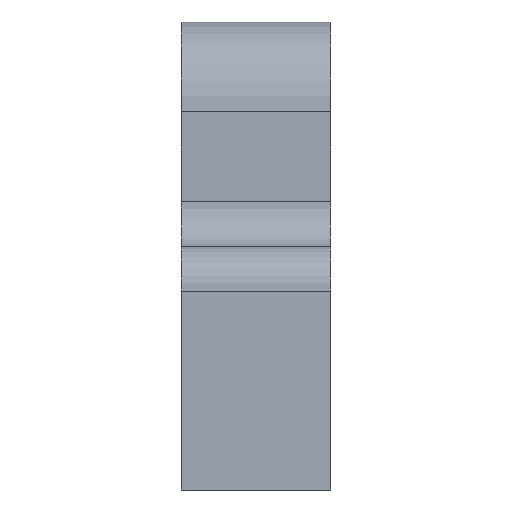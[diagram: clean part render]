
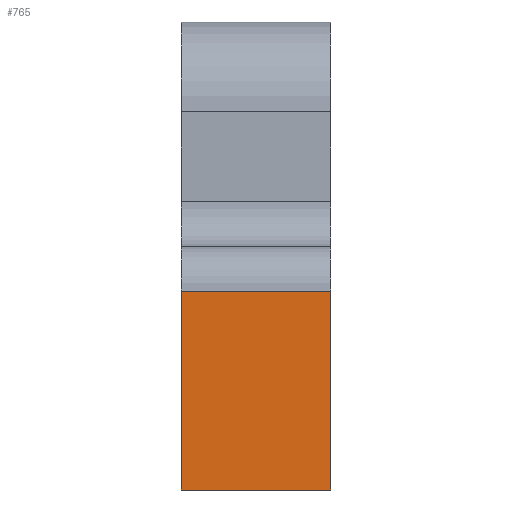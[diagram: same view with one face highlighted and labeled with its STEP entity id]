
A CAD part, left-side view. The second image highlights one B-rep face of the part: STEP entity #765.
In plain terms, the highlighted planar face has unit normal (-1, 0, 0).
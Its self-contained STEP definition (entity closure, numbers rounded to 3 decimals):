
#110=DIRECTION('',(0.,0.,1.));
#111=VECTOR('',#110,13.3);
#112=CARTESIAN_POINT('',(-33.,0.,-13.3));
#113=LINE('',#112,#111);
#153=DIRECTION('',(0.,-1.,0.));
#154=VECTOR('',#153,10.);
#155=CARTESIAN_POINT('',(-33.,10.,0.));
#156=LINE('',#155,#154);
#157=DIRECTION('',(0.,1.,0.));
#158=VECTOR('',#157,10.);
#159=CARTESIAN_POINT('',(-33.,0.,-13.3));
#160=LINE('',#159,#158);
#349=DIRECTION('',(0.,0.,1.));
#350=VECTOR('',#349,13.3);
#351=CARTESIAN_POINT('',(-33.,10.,-13.3));
#352=LINE('',#351,#350);
#465=CARTESIAN_POINT('',(-33.,0.,-13.3));
#466=VERTEX_POINT('',#465);
#485=CARTESIAN_POINT('',(-33.,10.,-13.3));
#486=VERTEX_POINT('',#485);
#594=CARTESIAN_POINT('',(-33.,0.,0.));
#596=VERTEX_POINT('',#594);
#597=CARTESIAN_POINT('',(-33.,10.,0.));
#598=VERTEX_POINT('',#597);
#752=CARTESIAN_POINT('',(-33.,0.,-13.3));
#753=DIRECTION('',(-1.,0.,0.));
#754=DIRECTION('',(0.,0.,1.));
#755=AXIS2_PLACEMENT_3D('',#752,#753,#754);
#756=PLANE('',#755);
#757=ORIENTED_EDGE('',*,*,#744,.T.);
#758=ORIENTED_EDGE('',*,*,#668,.F.);
#760=ORIENTED_EDGE('',*,*,#759,.T.);
#762=ORIENTED_EDGE('',*,*,#761,.T.);
#763=EDGE_LOOP('',(#757,#758,#760,#762));
#764=FACE_OUTER_BOUND('',#763,.F.);
#765=ADVANCED_FACE('',(#764),#756,.T.);
#668=EDGE_CURVE('',#466,#596,#113,.T.);
#744=EDGE_CURVE('',#598,#596,#156,.T.);
#759=EDGE_CURVE('',#466,#486,#160,.T.);
#761=EDGE_CURVE('',#486,#598,#352,.T.);
